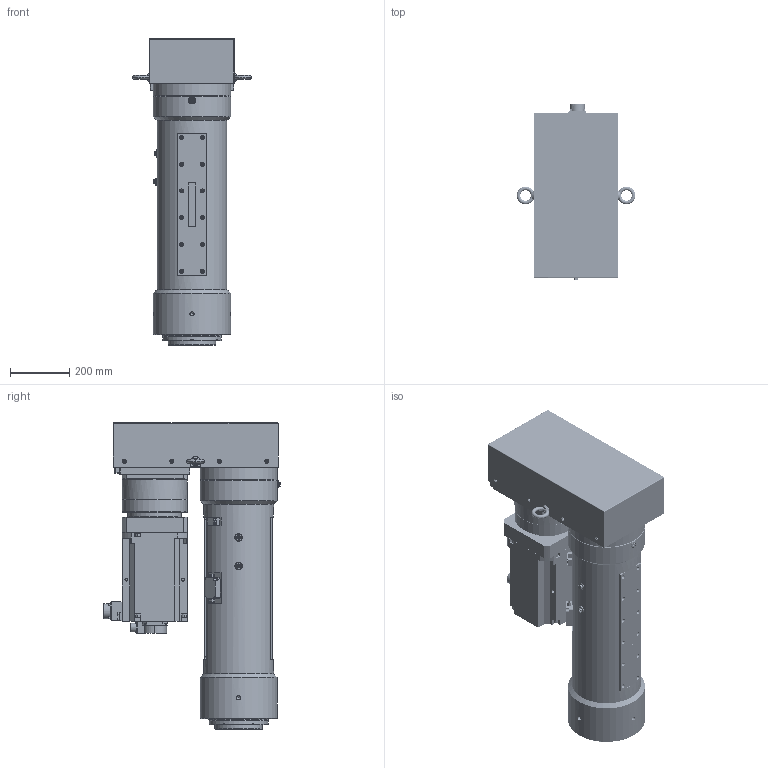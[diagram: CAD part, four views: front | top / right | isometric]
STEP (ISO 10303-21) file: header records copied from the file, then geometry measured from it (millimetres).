
FILE_DESCRIPTION( ('This file contains a STEP AP42 implementation' ,'as created by ZW3D STEP Interface translator.') ,'2;1' );
FILE_NAME( 'OACIS-DC-P300-400-95-J4_V20.51.stp' ,'26 5 4.1626 2', (''), ('ZWCAD Software Co.'), 'Version 1.0', 'ZW3D to STEP translator', '' );
FILE_SCHEMA(('AUTOMOTIVE_DESIGN { 1 0 10303 214 1 1 1 1 }'));
Length unit declared in the file: millimetre
Products named in the file (1): 0
Bounding box: 400 x 593.8 x 1033 mm (x, y, z)
Volume: 60633033.1 mm3; surface area: 5466761.2 mm2
Topology: 49 solids, 63 shells, 2174 faces, 5246 edges, 3291 vertices
Faces by surface type: cylinder 851, plane 818, cone 394, torus 95, bspline 13, sphere 3
Full cylindrical faces by diameter (mm): 4 x6, 4.2 x36, 4.3 x11, 4.5 x4, 5 x24, 5.3 x6, 5.5 x24, 6 x24, 6.4 x22, 6.8 x34, 8 x4, 8.4 x4, 8.5 x12, 9 x7, 10 x8, 10.106 x4, 10.2 x24, 10.5 x4, 12 x1, 13 x30, 14 x71, 15 x4, 16 x2, 16.5 x6, 17 x4, 17.294 x1, 17.5 x24, 18 x7, 20 x13, 25.4 x3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
Entity records: 79506 total; most frequent: CARTESIAN_POINT 25769, DIRECTION 10795, ORIENTED_EDGE 10216, EDGE_CURVE 5118, AXIS2_PLACEMENT_3D 4061, VERTEX_POINT 3289, EDGE_LOOP 2776, VECTOR 2673
